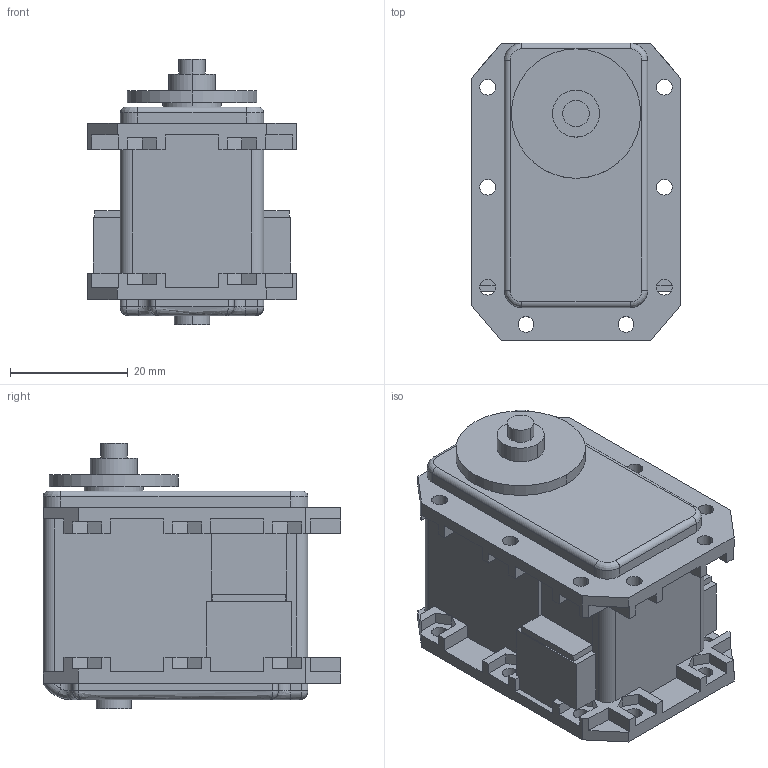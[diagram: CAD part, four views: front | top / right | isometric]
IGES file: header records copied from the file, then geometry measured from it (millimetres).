
Start section:  PTC IGES file: dc07_00a_n.igs
Global section: file name: dc07_00a_n.igs; native system: Pro/ENGINEER by Parametric Technology Corporation; preprocessor: 2006170; author: bono; organization: Unknown; date: 20061129.180001; units: millimetre
Bounding box: 35.6 x 50.6 x 45.1 mm (x, y, z)
Surface area: 11677.3 mm2 (no closed solid volume)
Topology: 0 solids, 0 shells, 342 faces, 1856 edges, 1856 vertices
Faces by surface type: bspline 252, revolution 90
